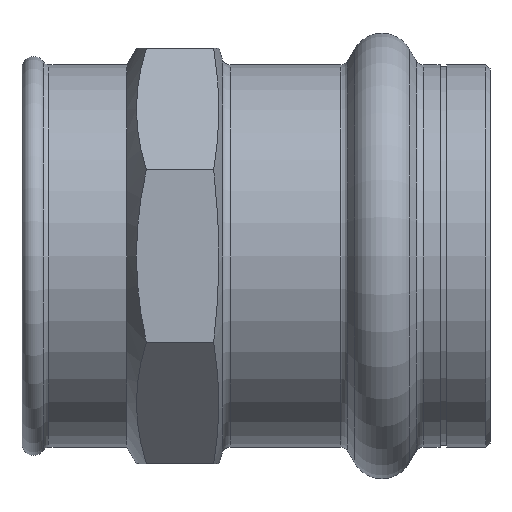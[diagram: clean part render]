
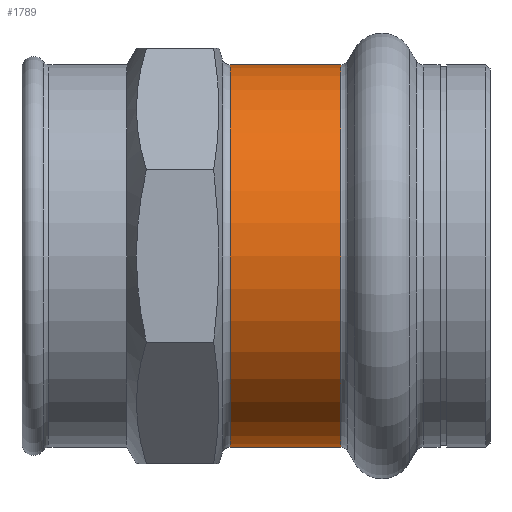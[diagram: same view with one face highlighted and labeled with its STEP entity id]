
A CAD part, left-side view. The second image highlights one B-rep face of the part: STEP entity #1789.
In plain terms, the highlighted cylindrical face has radius 23 mm (diameter 46 mm), a partial arc.
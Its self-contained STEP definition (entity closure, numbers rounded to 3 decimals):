
#34 = VERTEX_POINT ( 'NONE', #1231 ) ;
#121 = EDGE_LOOP ( 'NONE', ( #804, #318, #1918, #1665 ) ) ;
#217 = EDGE_CURVE ( 'NONE', #34, #913, #1025, .T. ) ;
#276 = CARTESIAN_POINT ( 'NONE',  ( 0., 17.965, 0. ) ) ;
#298 = DIRECTION ( 'NONE',  ( 0., -1., 0. ) ) ;
#301 = CARTESIAN_POINT ( 'NONE',  ( 0., -17.811, 0. ) ) ;
#318 = ORIENTED_EDGE ( 'NONE', *, *, #217, .T. ) ;
#400 = DIRECTION ( 'NONE',  ( 0., 0., -1. ) ) ;
#415 = DIRECTION ( 'NONE',  ( 0., -1., 0. ) ) ;
#419 = CARTESIAN_POINT ( 'NONE',  ( 0., -17.811, 23. ) ) ;
#424 = CARTESIAN_POINT ( 'NONE',  ( 0., 31.26, 0. ) ) ;
#448 = CARTESIAN_POINT ( 'NONE',  ( 0., 17.965, 23. ) ) ;
#588 = CIRCLE ( 'NONE', #868, 23. ) ;
#605 = DIRECTION ( 'NONE',  ( 0., 0., -1. ) ) ;
#648 = LINE ( 'NONE', #419, #1094 ) ;
#653 = DIRECTION ( 'NONE',  ( 0., -1., 0. ) ) ;
#756 = DIRECTION ( 'NONE',  ( 0., 0., -1. ) ) ;
#804 = ORIENTED_EDGE ( 'NONE', *, *, #1636, .F. ) ;
#805 = CARTESIAN_POINT ( 'NONE',  ( 0., 31.26, -23. ) ) ;
#868 = AXIS2_PLACEMENT_3D ( 'NONE', #276, #1659, #756 ) ;
#913 = VERTEX_POINT ( 'NONE', #805 ) ;
#979 = VERTEX_POINT ( 'NONE', #1486 ) ;
#1025 = CIRCLE ( 'NONE', #1586, 23. ) ;
#1063 = VERTEX_POINT ( 'NONE', #448 ) ;
#1094 = VECTOR ( 'NONE', #653, 1000. ) ;
#1119 = CARTESIAN_POINT ( 'NONE',  ( 0., -17.811, -23. ) ) ;
#1121 = FACE_OUTER_BOUND ( 'NONE', #121, .T. ) ;
#1166 = EDGE_CURVE ( 'NONE', #1063, #979, #588, .T. ) ;
#1231 = CARTESIAN_POINT ( 'NONE',  ( 0., 31.26, 23. ) ) ;
#1249 = AXIS2_PLACEMENT_3D ( 'NONE', #301, #298, #605 ) ;
#1290 = DIRECTION ( 'NONE',  ( 0., -1., 0. ) ) ;
#1364 = VECTOR ( 'NONE', #1290, 1000. ) ;
#1391 = CYLINDRICAL_SURFACE ( 'NONE', #1249, 23. ) ;
#1452 = LINE ( 'NONE', #1119, #1364 ) ;
#1486 = CARTESIAN_POINT ( 'NONE',  ( 0., 17.965, -23. ) ) ;
#1586 = AXIS2_PLACEMENT_3D ( 'NONE', #424, #415, #400 ) ;
#1636 = EDGE_CURVE ( 'NONE', #34, #1063, #648, .T. ) ;
#1659 = DIRECTION ( 'NONE',  ( 0., -1., 0. ) ) ;
#1662 = EDGE_CURVE ( 'NONE', #913, #979, #1452, .T. ) ;
#1665 = ORIENTED_EDGE ( 'NONE', *, *, #1166, .F. ) ;
#1789 = ADVANCED_FACE ( 'NONE', ( #1121 ), #1391, .T. ) ;
#1918 = ORIENTED_EDGE ( 'NONE', *, *, #1662, .T. ) ;
